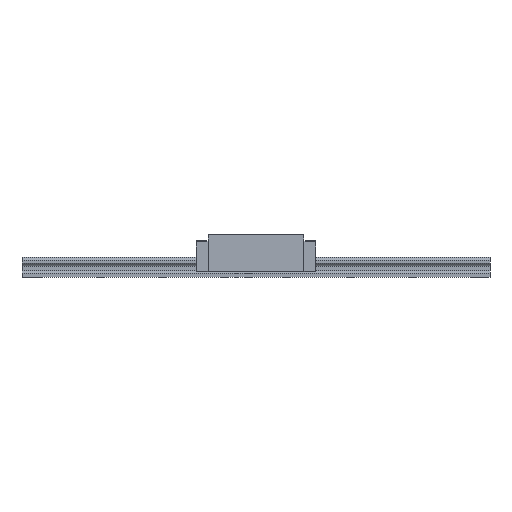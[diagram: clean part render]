
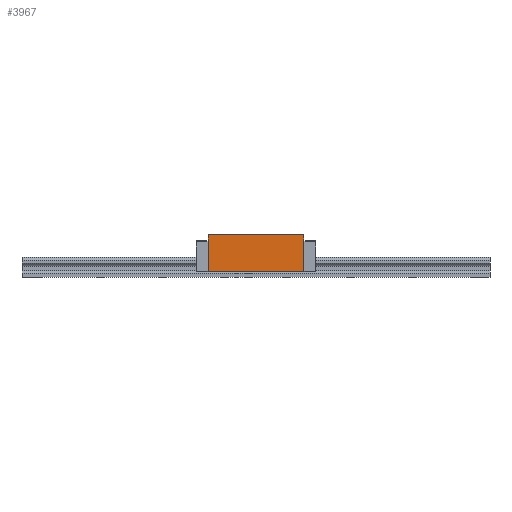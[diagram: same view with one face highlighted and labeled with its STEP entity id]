
A CAD part, front view. The second image highlights one B-rep face of the part: STEP entity #3967.
In plain terms, the highlighted planar face has unit normal (0, -1, 0).
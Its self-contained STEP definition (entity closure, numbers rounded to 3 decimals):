
#80 = CARTESIAN_POINT ( 'NONE',  ( 61.5, -35., 55. ) ) ;
#332 = VECTOR ( 'NONE', #1353, 1000. ) ;
#432 = DIRECTION ( 'NONE',  ( 0., 0., -1. ) ) ;
#621 = DIRECTION ( 'NONE',  ( -1., 0., 0. ) ) ;
#703 = ORIENTED_EDGE ( 'NONE', *, *, #2679, .T. ) ;
#847 = ORIENTED_EDGE ( 'NONE', *, *, #922, .T. ) ;
#922 = EDGE_CURVE ( 'NONE', #3891, #4945, #3276, .T. ) ;
#1148 = CARTESIAN_POINT ( 'NONE',  ( -61.5, -35., 7.5 ) ) ;
#1284 = VECTOR ( 'NONE', #621, 1000. ) ;
#1353 = DIRECTION ( 'NONE',  ( -1., 0., 0. ) ) ;
#1551 = VERTEX_POINT ( 'NONE', #1148 ) ;
#1554 = LINE ( 'NONE', #3099, #2435 ) ;
#1623 = DIRECTION ( 'NONE',  ( 0., 1., 0. ) ) ;
#1962 = CARTESIAN_POINT ( 'NONE',  ( 61.5, -35., 54.5 ) ) ;
#2007 = FACE_OUTER_BOUND ( 'NONE', #3766, .T. ) ;
#2252 = EDGE_CURVE ( 'NONE', #2321, #1551, #2554, .T. ) ;
#2321 = VERTEX_POINT ( 'NONE', #2605 ) ;
#2362 = LINE ( 'NONE', #3893, #4669 ) ;
#2435 = VECTOR ( 'NONE', #4629, 1000. ) ;
#2554 = LINE ( 'NONE', #4084, #1284 ) ;
#2605 = CARTESIAN_POINT ( 'NONE',  ( 61.5, -35., 7.5 ) ) ;
#2679 = EDGE_CURVE ( 'NONE', #4945, #1551, #2362, .T. ) ;
#3099 = CARTESIAN_POINT ( 'NONE',  ( 61.5, -35., 55. ) ) ;
#3164 = DIRECTION ( 'NONE',  ( 1., 0., 0. ) ) ;
#3276 = LINE ( 'NONE', #4802, #332 ) ;
#3308 = ORIENTED_EDGE ( 'NONE', *, *, #3884, .F. ) ;
#3391 = AXIS2_PLACEMENT_3D ( 'NONE', #80, #1623, #3164 ) ;
#3545 = PLANE ( 'NONE',  #3391 ) ;
#3640 = CARTESIAN_POINT ( 'NONE',  ( -61.5, -35., 54.5 ) ) ;
#3766 = EDGE_LOOP ( 'NONE', ( #3308, #847, #703, #4564 ) ) ;
#3884 = EDGE_CURVE ( 'NONE', #3891, #2321, #1554, .T. ) ;
#3891 = VERTEX_POINT ( 'NONE', #1962 ) ;
#3893 = CARTESIAN_POINT ( 'NONE',  ( -61.5, -35., 55. ) ) ;
#3967 = ADVANCED_FACE ( 'NONE', ( #2007 ), #3545, .F. ) ;
#4084 = CARTESIAN_POINT ( 'NONE',  ( 61.5, -35., 7.5 ) ) ;
#4564 = ORIENTED_EDGE ( 'NONE', *, *, #2252, .F. ) ;
#4629 = DIRECTION ( 'NONE',  ( 0., 0., -1. ) ) ;
#4669 = VECTOR ( 'NONE', #432, 1000. ) ;
#4802 = CARTESIAN_POINT ( 'NONE',  ( 61.5, -35., 54.5 ) ) ;
#4945 = VERTEX_POINT ( 'NONE', #3640 ) ;
